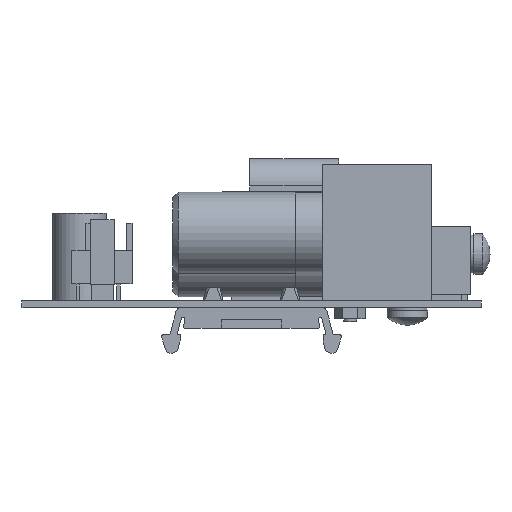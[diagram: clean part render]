
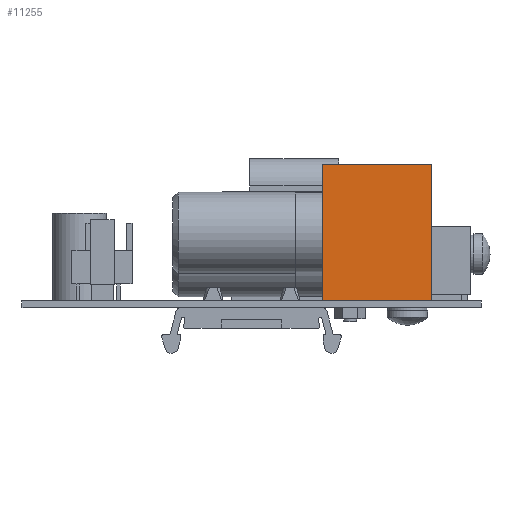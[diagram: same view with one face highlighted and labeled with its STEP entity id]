
A CAD part, left-side view. The second image highlights one B-rep face of the part: STEP entity #11255.
In plain terms, the highlighted planar face has unit normal (-1, 0, 0).
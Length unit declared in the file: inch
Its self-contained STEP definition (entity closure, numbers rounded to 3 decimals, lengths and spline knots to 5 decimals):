
#2382=CARTESIAN_POINT('',(-2.505,-0.6575,1.318));
#2383=VERTEX_POINT('',#2382);
#2390=CARTESIAN_POINT('',(-2.505,-1.6575,1.318));
#2391=VERTEX_POINT('',#2390);
#2392=CARTESIAN_POINT('',(-2.505,-1.6575,1.318));
#2393=DIRECTION('',(0.0,1.0,0.0));
#2394=VECTOR('',#2393,1.0);
#2395=LINE('',#2392,#2394);
#2396=EDGE_CURVE('',#2391,#2383,#2395,.T.);
#7957=CARTESIAN_POINT('',(-2.505,-1.6575,0.063));
#7958=VERTEX_POINT('',#7957);
#7965=CARTESIAN_POINT('',(-2.505,-0.6575,0.063));
#7966=VERTEX_POINT('',#7965);
#7967=CARTESIAN_POINT('',(-2.505,-1.6575,0.063));
#7968=DIRECTION('',(0.0,1.0,0.0));
#7969=VECTOR('',#7968,1.0);
#7970=LINE('',#7967,#7969);
#7971=EDGE_CURVE('',#7958,#7966,#7970,.T.);
#11234=CARTESIAN_POINT('',(-2.505,-1.6575,0.063));
#11235=DIRECTION('',(-1.0,0.0,0.0));
#11236=DIRECTION('',(0.0,0.0,1.0));
#11237=AXIS2_PLACEMENT_3D('',#11234,#11235,#11236);
#11238=PLANE('',#11237);
#11239=ORIENTED_EDGE('',*,*,#2396,.T.);
#11240=CARTESIAN_POINT('',(-2.505,-0.6575,0.063));
#11241=DIRECTION('',(0.0,0.0,1.0));
#11242=VECTOR('',#11241,1.255);
#11243=LINE('',#11240,#11242);
#11244=EDGE_CURVE('',#7966,#2383,#11243,.T.);
#11245=ORIENTED_EDGE('',*,*,#11244,.F.);
#11246=ORIENTED_EDGE('',*,*,#7971,.F.);
#11247=CARTESIAN_POINT('',(-2.505,-1.6575,0.063));
#11248=DIRECTION('',(0.0,0.0,1.0));
#11249=VECTOR('',#11248,1.255);
#11250=LINE('',#11247,#11249);
#11251=EDGE_CURVE('',#7958,#2391,#11250,.T.);
#11252=ORIENTED_EDGE('',*,*,#11251,.T.);
#11253=EDGE_LOOP('',(#11239,#11245,#11246,#11252));
#11254=FACE_OUTER_BOUND('',#11253,.T.);
#11255=ADVANCED_FACE('',(#11254),#11238,.T.);
